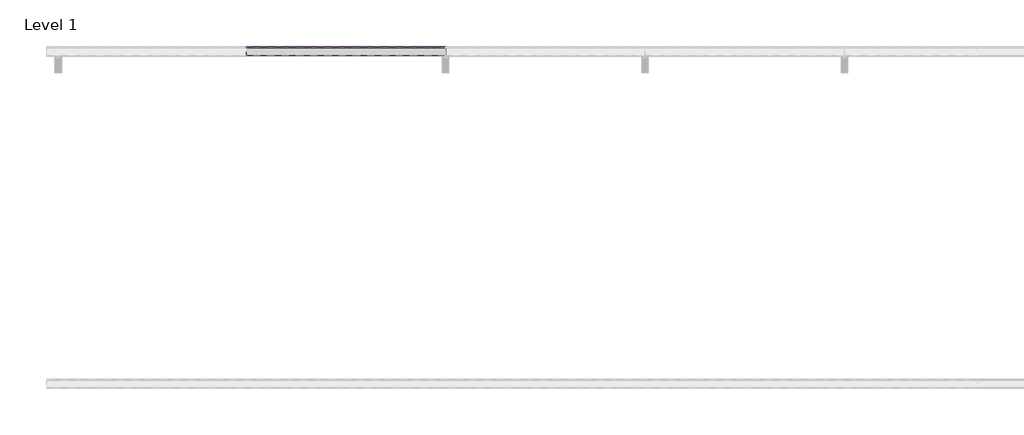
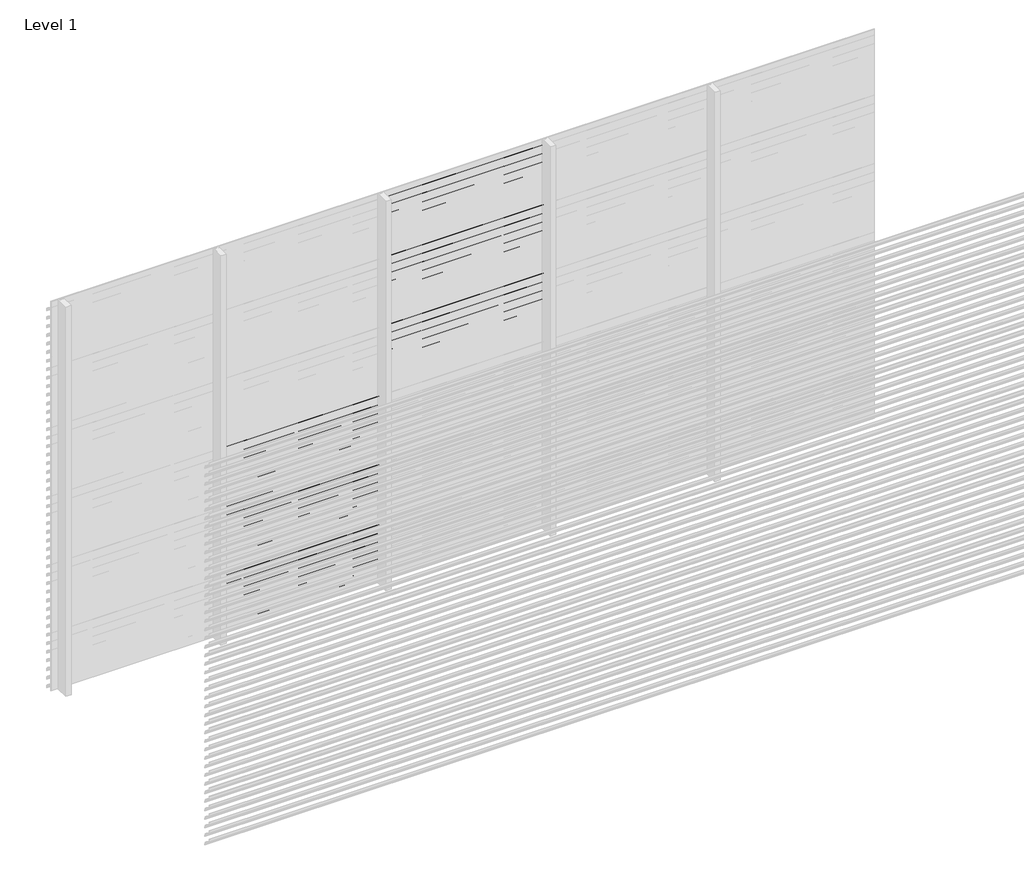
# One storey, part 140 of 540: 43 proxies.
"""IFC4 building model written with IfcOpenShell, lengths in millimetres."""

from ifc_helpers import new_model, si_unit, point, frame, frame_2d, origin, place, context, project, spatial, polyline, circle_curve, trimmed, segment, composite_curve, outline, extrude, element, save

model = new_model("IFC4")

# Units and contexts
model_context = context("Model", 3, world=origin())
ifc_project = project(units=[si_unit("LENGTHUNIT", "METRE", prefix="MILLI")], contexts=[model_context])

# Site, building, storey
site = spatial("IfcSite", under=ifc_project)
building = spatial("IfcBuilding", under=site)
storey = spatial("IfcBuildingStorey", under=building, Name="Level 1", Elevation=0.0)

# Proxies
placement = place(None, origin())
element("IfcBuildingElementProxy", 1, Name="Wall Sweeps", at=placement, inside=storey, context=model_context, shape_type="SweptSolid", body=[
    extrude(outline(composite_curve([segment(trimmed(circle_curve(frame_2d((29013.609548, 1381.7676769)), 26.4944656), [point((29030.5717655, 1402.1205608))], [point((29040.0540136, 1383.3946208))], False, "CARTESIAN"), True, "CONTINUOUS"), segment(polyline([(29040.0540136, 1383.3946208), (29040.0540136, 1375.5), (29038.8040136, 1376.2216933), (29038.8040136, 1381.7676769)]), True, "CONTINUOUS"), segment(trimmed(circle_curve(frame_2d((29013.609548, 1381.7676769)), 25.1944656), [point((29038.8040136, 1381.7676769))], [point((29029.7815085, 1401.086807))], True, "CARTESIAN"), True, "CONTINUOUS"), segment(polyline([(29029.7815085, 1401.086807), (28985.0540136, 1432.3158044), (28985.0540136, 1452.0), (28986.3040136, 1452.0), (28986.3040136, 1433.0285629), (29030.5717655, 1402.1205608)]), True, "CONTINUOUS")], self_intersect=False)), frame((90666.6208099, 0.0, 0.0), z_axis=(1.0, 0.0, 0.0), x_axis=(0.0, 1.0, 0.0)), (0.0, 0.0, 1.0), 1199.9999999),
])
element("IfcBuildingElementProxy", 2, Name="Wall Sweeps", at=placement, inside=storey, context=model_context, shape_type="SweptSolid", body=[
    extrude(outline(composite_curve([segment(trimmed(circle_curve(frame_2d((29013.609548, 1315.7676769)), 26.4944656), [point((29030.5717655, 1336.1205608))], [point((29040.0540136, 1317.3946208))], False, "CARTESIAN"), True, "CONTINUOUS"), segment(polyline([(29040.0540136, 1317.3946208), (29040.0540136, 1309.5), (29038.8040136, 1310.2216933), (29038.8040136, 1315.7676769)]), True, "CONTINUOUS"), segment(trimmed(circle_curve(frame_2d((29013.609548, 1315.7676769)), 25.1944656), [point((29038.8040136, 1315.7676769))], [point((29029.7815085, 1335.086807))], True, "CARTESIAN"), True, "CONTINUOUS"), segment(polyline([(29029.7815085, 1335.086807), (28985.0540136, 1366.3158044), (28985.0540136, 1386.0), (28986.3040136, 1386.0), (28986.3040136, 1367.0285629), (29030.5717655, 1336.1205608)]), True, "CONTINUOUS")], self_intersect=False)), frame((90666.6208099, 0.0, 0.0), z_axis=(1.0, 0.0, 0.0), x_axis=(0.0, 1.0, 0.0)), (0.0, 0.0, 1.0), 1199.9999999),
])
element("IfcBuildingElementProxy", 3, Name="Wall Sweeps", at=placement, inside=storey, context=model_context, shape_type="SweptSolid", body=[
    extrude(outline(composite_curve([segment(trimmed(circle_curve(frame_2d((29013.609548, 1249.7676769)), 26.4944656), [point((29030.5717655, 1270.1205608))], [point((29040.0540136, 1251.3946208))], False, "CARTESIAN"), True, "CONTINUOUS"), segment(polyline([(29040.0540136, 1251.3946208), (29040.0540136, 1243.5), (29038.8040136, 1244.2216933), (29038.8040136, 1249.7676769)]), True, "CONTINUOUS"), segment(trimmed(circle_curve(frame_2d((29013.609548, 1249.7676769)), 25.1944656), [point((29038.8040136, 1249.7676769))], [point((29029.7815085, 1269.086807))], True, "CARTESIAN"), True, "CONTINUOUS"), segment(polyline([(29029.7815085, 1269.086807), (28985.0540136, 1300.3158044), (28985.0540136, 1320.0), (28986.3040136, 1320.0), (28986.3040136, 1301.0285629), (29030.5717655, 1270.1205608)]), True, "CONTINUOUS")], self_intersect=False)), frame((90666.6208099, 0.0, 0.0), z_axis=(1.0, 0.0, 0.0), x_axis=(0.0, 1.0, 0.0)), (0.0, 0.0, 1.0), 1199.9999999),
])
element("IfcBuildingElementProxy", 4, Name="Wall Sweeps", at=placement, inside=storey, context=model_context, shape_type="SweptSolid", body=[
    extrude(outline(composite_curve([segment(trimmed(circle_curve(frame_2d((29013.609548, 1183.7676769)), 26.4944656), [point((29030.5717655, 1204.1205608))], [point((29040.0540136, 1185.3946208))], False, "CARTESIAN"), True, "CONTINUOUS"), segment(polyline([(29040.0540136, 1185.3946208), (29040.0540136, 1177.5), (29038.8040136, 1178.2216933), (29038.8040136, 1183.7676769)]), True, "CONTINUOUS"), segment(trimmed(circle_curve(frame_2d((29013.609548, 1183.7676769)), 25.1944656), [point((29038.8040136, 1183.7676769))], [point((29029.7815085, 1203.086807))], True, "CARTESIAN"), True, "CONTINUOUS"), segment(polyline([(29029.7815085, 1203.086807), (28985.0540136, 1234.3158044), (28985.0540136, 1254.0), (28986.3040136, 1254.0), (28986.3040136, 1235.0285629), (29030.5717655, 1204.1205608)]), True, "CONTINUOUS")], self_intersect=False)), frame((90666.6208099, 0.0, 0.0), z_axis=(1.0, 0.0, 0.0), x_axis=(0.0, 1.0, 0.0)), (0.0, 0.0, 1.0), 1199.9999999),
])
element("IfcBuildingElementProxy", 5, Name="Wall Sweeps", at=placement, inside=storey, context=model_context, shape_type="SweptSolid", body=[
    extrude(outline(composite_curve([segment(trimmed(circle_curve(frame_2d((29013.609548, 1117.7676769)), 26.4944656), [point((29030.5717655, 1138.1205608))], [point((29040.0540136, 1119.3946208))], False, "CARTESIAN"), True, "CONTINUOUS"), segment(polyline([(29040.0540136, 1119.3946208), (29040.0540136, 1111.5), (29038.8040136, 1112.2216933), (29038.8040136, 1117.7676769)]), True, "CONTINUOUS"), segment(trimmed(circle_curve(frame_2d((29013.609548, 1117.7676769)), 25.1944656), [point((29038.8040136, 1117.7676769))], [point((29029.7815085, 1137.086807))], True, "CARTESIAN"), True, "CONTINUOUS"), segment(polyline([(29029.7815085, 1137.086807), (28985.0540136, 1168.3158044), (28985.0540136, 1188.0), (28986.3040136, 1188.0), (28986.3040136, 1169.0285629), (29030.5717655, 1138.1205608)]), True, "CONTINUOUS")], self_intersect=False)), frame((90666.6208099, 0.0, 0.0), z_axis=(1.0, 0.0, 0.0), x_axis=(0.0, 1.0, 0.0)), (0.0, 0.0, 1.0), 1199.9999999),
])
element("IfcBuildingElementProxy", 6, Name="Wall Sweeps", at=placement, inside=storey, context=model_context, shape_type="SweptSolid", body=[
    extrude(outline(composite_curve([segment(trimmed(circle_curve(frame_2d((29013.609548, 1051.7676769)), 26.4944656), [point((29030.5717655, 1072.1205608))], [point((29040.0540136, 1053.3946208))], False, "CARTESIAN"), True, "CONTINUOUS"), segment(polyline([(29040.0540136, 1053.3946208), (29040.0540136, 1045.5), (29038.8040136, 1046.2216933), (29038.8040136, 1051.7676769)]), True, "CONTINUOUS"), segment(trimmed(circle_curve(frame_2d((29013.609548, 1051.7676769)), 25.1944656), [point((29038.8040136, 1051.7676769))], [point((29029.7815085, 1071.086807))], True, "CARTESIAN"), True, "CONTINUOUS"), segment(polyline([(29029.7815085, 1071.086807), (28985.0540136, 1102.3158044), (28985.0540136, 1122.0), (28986.3040136, 1122.0), (28986.3040136, 1103.0285629), (29030.5717655, 1072.1205608)]), True, "CONTINUOUS")], self_intersect=False)), frame((90666.6208099, 0.0, 0.0), z_axis=(1.0, 0.0, 0.0), x_axis=(0.0, 1.0, 0.0)), (0.0, 0.0, 1.0), 1199.9999999),
])
element("IfcBuildingElementProxy", 7, Name="Wall Sweeps", at=placement, inside=storey, context=model_context, shape_type="SweptSolid", body=[
    extrude(outline(composite_curve([segment(trimmed(circle_curve(frame_2d((29013.609548, 985.7676769)), 26.4944656), [point((29030.5717655, 1006.1205608))], [point((29040.0540136, 987.3946208))], False, "CARTESIAN"), True, "CONTINUOUS"), segment(polyline([(29040.0540136, 987.3946208), (29040.0540136, 979.5), (29038.8040136, 980.2216933), (29038.8040136, 985.7676769)]), True, "CONTINUOUS"), segment(trimmed(circle_curve(frame_2d((29013.609548, 985.7676769)), 25.1944656), [point((29038.8040136, 985.7676769))], [point((29029.7815085, 1005.086807))], True, "CARTESIAN"), True, "CONTINUOUS"), segment(polyline([(29029.7815085, 1005.086807), (28985.0540136, 1036.3158044), (28985.0540136, 1056.0), (28986.3040136, 1056.0), (28986.3040136, 1037.0285629), (29030.5717655, 1006.1205608)]), True, "CONTINUOUS")], self_intersect=False)), frame((90666.6208099, 0.0, 0.0), z_axis=(1.0, 0.0, 0.0), x_axis=(0.0, 1.0, 0.0)), (0.0, 0.0, 1.0), 1199.9999999),
])
element("IfcBuildingElementProxy", 8, Name="Wall Sweeps", at=placement, inside=storey, context=model_context, shape_type="SweptSolid", body=[
    extrude(outline(composite_curve([segment(trimmed(circle_curve(frame_2d((29013.609548, 919.7676769)), 26.4944656), [point((29030.5717655, 940.1205608))], [point((29040.0540136, 921.3946208))], False, "CARTESIAN"), True, "CONTINUOUS"), segment(polyline([(29040.0540136, 921.3946208), (29040.0540136, 913.5), (29038.8040136, 914.2216933), (29038.8040136, 919.7676769)]), True, "CONTINUOUS"), segment(trimmed(circle_curve(frame_2d((29013.609548, 919.7676769)), 25.1944656), [point((29038.8040136, 919.7676769))], [point((29029.7815085, 939.086807))], True, "CARTESIAN"), True, "CONTINUOUS"), segment(polyline([(29029.7815085, 939.086807), (28985.0540136, 970.3158044), (28985.0540136, 990.0), (28986.3040136, 990.0), (28986.3040136, 971.0285629), (29030.5717655, 940.1205608)]), True, "CONTINUOUS")], self_intersect=False)), frame((90666.6208099, 0.0, 0.0), z_axis=(1.0, 0.0, 0.0), x_axis=(0.0, 1.0, 0.0)), (0.0, 0.0, 1.0), 1199.9999999),
])
element("IfcBuildingElementProxy", 9, Name="Wall Sweeps", at=placement, inside=storey, context=model_context, shape_type="SweptSolid", body=[
    extrude(outline(composite_curve([segment(trimmed(circle_curve(frame_2d((29013.609548, 853.7676769)), 26.4944656), [point((29030.5717655, 874.1205608))], [point((29040.0540136, 855.3946208))], False, "CARTESIAN"), True, "CONTINUOUS"), segment(polyline([(29040.0540136, 855.3946208), (29040.0540136, 847.5), (29038.8040136, 848.2216933), (29038.8040136, 853.7676769)]), True, "CONTINUOUS"), segment(trimmed(circle_curve(frame_2d((29013.609548, 853.7676769)), 25.1944656), [point((29038.8040136, 853.7676769))], [point((29029.7815085, 873.086807))], True, "CARTESIAN"), True, "CONTINUOUS"), segment(polyline([(29029.7815085, 873.086807), (28985.0540136, 904.3158044), (28985.0540136, 924.0), (28986.3040136, 924.0), (28986.3040136, 905.0285629), (29030.5717655, 874.1205608)]), True, "CONTINUOUS")], self_intersect=False)), frame((90666.6208099, 0.0, 0.0), z_axis=(1.0, 0.0, 0.0), x_axis=(0.0, 1.0, 0.0)), (0.0, 0.0, 1.0), 1199.9999999),
])
element("IfcBuildingElementProxy", 10, Name="Wall Sweeps", at=placement, inside=storey, context=model_context, shape_type="SweptSolid", body=[
    extrude(outline(composite_curve([segment(trimmed(circle_curve(frame_2d((29013.609548, 787.7676769)), 26.4944656), [point((29030.5717655, 808.1205608))], [point((29040.0540136, 789.3946208))], False, "CARTESIAN"), True, "CONTINUOUS"), segment(polyline([(29040.0540136, 789.3946208), (29040.0540136, 781.5), (29038.8040136, 782.2216933), (29038.8040136, 787.7676769)]), True, "CONTINUOUS"), segment(trimmed(circle_curve(frame_2d((29013.609548, 787.7676769)), 25.1944656), [point((29038.8040136, 787.7676769))], [point((29029.7815085, 807.086807))], True, "CARTESIAN"), True, "CONTINUOUS"), segment(polyline([(29029.7815085, 807.086807), (28985.0540136, 838.3158044), (28985.0540136, 858.0), (28986.3040136, 858.0), (28986.3040136, 839.0285629), (29030.5717655, 808.1205608)]), True, "CONTINUOUS")], self_intersect=False)), frame((90666.6208099, 0.0, 0.0), z_axis=(1.0, 0.0, 0.0), x_axis=(0.0, 1.0, 0.0)), (0.0, 0.0, 1.0), 1199.9999999),
])
element("IfcBuildingElementProxy", 11, Name="Wall Sweeps", at=placement, inside=storey, context=model_context, shape_type="SweptSolid", body=[
    extrude(outline(composite_curve([segment(trimmed(circle_curve(frame_2d((29013.609548, 721.7676769)), 26.4944656), [point((29030.5717655, 742.1205608))], [point((29040.0540136, 723.3946208))], False, "CARTESIAN"), True, "CONTINUOUS"), segment(polyline([(29040.0540136, 723.3946208), (29040.0540136, 715.5), (29038.8040136, 716.2216933), (29038.8040136, 721.7676769)]), True, "CONTINUOUS"), segment(trimmed(circle_curve(frame_2d((29013.609548, 721.7676769)), 25.1944656), [point((29038.8040136, 721.7676769))], [point((29029.7815085, 741.086807))], True, "CARTESIAN"), True, "CONTINUOUS"), segment(polyline([(29029.7815085, 741.086807), (28985.0540136, 772.3158044), (28985.0540136, 792.0), (28986.3040136, 792.0), (28986.3040136, 773.0285629), (29030.5717655, 742.1205608)]), True, "CONTINUOUS")], self_intersect=False)), frame((90666.6208099, 0.0, 0.0), z_axis=(1.0, 0.0, 0.0), x_axis=(0.0, 1.0, 0.0)), (0.0, 0.0, 1.0), 1199.9999999),
])
element("IfcBuildingElementProxy", 12, Name="Wall Sweeps", at=placement, inside=storey, context=model_context, shape_type="SweptSolid", body=[
    extrude(outline(composite_curve([segment(trimmed(circle_curve(frame_2d((29013.609548, 655.7676769)), 26.4944656), [point((29030.5717655, 676.1205608))], [point((29040.0540136, 657.3946208))], False, "CARTESIAN"), True, "CONTINUOUS"), segment(polyline([(29040.0540136, 657.3946208), (29040.0540136, 649.5), (29038.8040136, 650.2216933), (29038.8040136, 655.7676769)]), True, "CONTINUOUS"), segment(trimmed(circle_curve(frame_2d((29013.609548, 655.7676769)), 25.1944656), [point((29038.8040136, 655.7676769))], [point((29029.7815085, 675.086807))], True, "CARTESIAN"), True, "CONTINUOUS"), segment(polyline([(29029.7815085, 675.086807), (28985.0540136, 706.3158044), (28985.0540136, 726.0), (28986.3040136, 726.0), (28986.3040136, 707.0285629), (29030.5717655, 676.1205608)]), True, "CONTINUOUS")], self_intersect=False)), frame((90666.6208099, 0.0, 0.0), z_axis=(1.0, 0.0, 0.0), x_axis=(0.0, 1.0, 0.0)), (0.0, 0.0, 1.0), 1199.9999999),
])
element("IfcBuildingElementProxy", 13, Name="Wall Sweeps", at=placement, inside=storey, context=model_context, shape_type="SweptSolid", body=[
    extrude(outline(composite_curve([segment(trimmed(circle_curve(frame_2d((29013.609548, 589.7676769)), 26.4944656), [point((29030.5717655, 610.1205608))], [point((29040.0540136, 591.3946208))], False, "CARTESIAN"), True, "CONTINUOUS"), segment(polyline([(29040.0540136, 591.3946208), (29040.0540136, 583.5), (29038.8040136, 584.2216933), (29038.8040136, 589.7676769)]), True, "CONTINUOUS"), segment(trimmed(circle_curve(frame_2d((29013.609548, 589.7676769)), 25.1944656), [point((29038.8040136, 589.7676769))], [point((29029.7815085, 609.086807))], True, "CARTESIAN"), True, "CONTINUOUS"), segment(polyline([(29029.7815085, 609.086807), (28985.0540136, 640.3158044), (28985.0540136, 660.0), (28986.3040136, 660.0), (28986.3040136, 641.0285629), (29030.5717655, 610.1205608)]), True, "CONTINUOUS")], self_intersect=False)), frame((90666.6208099, 0.0, 0.0), z_axis=(1.0, 0.0, 0.0), x_axis=(0.0, 1.0, 0.0)), (0.0, 0.0, 1.0), 1199.9999999),
])
element("IfcBuildingElementProxy", 14, Name="Wall Sweeps", at=placement, inside=storey, context=model_context, shape_type="SweptSolid", body=[
    extrude(outline(composite_curve([segment(trimmed(circle_curve(frame_2d((29013.609548, 523.7676769)), 26.4944656), [point((29030.5717655, 544.1205608))], [point((29040.0540136, 525.3946208))], False, "CARTESIAN"), True, "CONTINUOUS"), segment(polyline([(29040.0540136, 525.3946208), (29040.0540136, 517.5), (29038.8040136, 518.2216933), (29038.8040136, 523.7676769)]), True, "CONTINUOUS"), segment(trimmed(circle_curve(frame_2d((29013.609548, 523.7676769)), 25.1944656), [point((29038.8040136, 523.7676769))], [point((29029.7815085, 543.086807))], True, "CARTESIAN"), True, "CONTINUOUS"), segment(polyline([(29029.7815085, 543.086807), (28985.0540136, 574.3158044), (28985.0540136, 594.0), (28986.3040136, 594.0), (28986.3040136, 575.0285629), (29030.5717655, 544.1205608)]), True, "CONTINUOUS")], self_intersect=False)), frame((90666.6208099, 0.0, 0.0), z_axis=(1.0, 0.0, 0.0), x_axis=(0.0, 1.0, 0.0)), (0.0, 0.0, 1.0), 1199.9999999),
])
element("IfcBuildingElementProxy", 15, Name="Wall Sweeps", at=placement, inside=storey, context=model_context, shape_type="SweptSolid", body=[
    extrude(outline(composite_curve([segment(trimmed(circle_curve(frame_2d((29013.609548, 457.7676769)), 26.4944656), [point((29030.5717655, 478.1205608))], [point((29040.0540136, 459.3946208))], False, "CARTESIAN"), True, "CONTINUOUS"), segment(polyline([(29040.0540136, 459.3946208), (29040.0540136, 451.5), (29038.8040136, 452.2216933), (29038.8040136, 457.7676769)]), True, "CONTINUOUS"), segment(trimmed(circle_curve(frame_2d((29013.609548, 457.7676769)), 25.1944656), [point((29038.8040136, 457.7676769))], [point((29029.7815085, 477.086807))], True, "CARTESIAN"), True, "CONTINUOUS"), segment(polyline([(29029.7815085, 477.086807), (28985.0540136, 508.3158044), (28985.0540136, 528.0), (28986.3040136, 528.0), (28986.3040136, 509.0285629), (29030.5717655, 478.1205608)]), True, "CONTINUOUS")], self_intersect=False)), frame((90666.6208099, 0.0, 0.0), z_axis=(1.0, 0.0, 0.0), x_axis=(0.0, 1.0, 0.0)), (0.0, 0.0, 1.0), 1199.9999999),
])
element("IfcBuildingElementProxy", 16, Name="Wall Sweeps", at=placement, inside=storey, context=model_context, shape_type="SweptSolid", body=[
    extrude(outline(composite_curve([segment(trimmed(circle_curve(frame_2d((29013.609548, 391.7676769)), 26.4944656), [point((29030.5717655, 412.1205608))], [point((29040.0540136, 393.3946208))], False, "CARTESIAN"), True, "CONTINUOUS"), segment(polyline([(29040.0540136, 393.3946208), (29040.0540136, 385.5), (29038.8040136, 386.2216933), (29038.8040136, 391.7676769)]), True, "CONTINUOUS"), segment(trimmed(circle_curve(frame_2d((29013.609548, 391.7676769)), 25.1944656), [point((29038.8040136, 391.7676769))], [point((29029.7815085, 411.086807))], True, "CARTESIAN"), True, "CONTINUOUS"), segment(polyline([(29029.7815085, 411.086807), (28985.0540136, 442.3158044), (28985.0540136, 462.0), (28986.3040136, 462.0), (28986.3040136, 443.0285629), (29030.5717655, 412.1205608)]), True, "CONTINUOUS")], self_intersect=False)), frame((90666.6208099, 0.0, 0.0), z_axis=(1.0, 0.0, 0.0), x_axis=(0.0, 1.0, 0.0)), (0.0, 0.0, 1.0), 1199.9999999),
])
element("IfcBuildingElementProxy", 17, Name="Wall Sweeps", at=placement, inside=storey, context=model_context, shape_type="SweptSolid", body=[
    extrude(outline(composite_curve([segment(trimmed(circle_curve(frame_2d((29013.609548, 325.7676769)), 26.4944656), [point((29030.5717655, 346.1205608))], [point((29040.0540136, 327.3946208))], False, "CARTESIAN"), True, "CONTINUOUS"), segment(polyline([(29040.0540136, 327.3946208), (29040.0540136, 319.5), (29038.8040136, 320.2216933), (29038.8040136, 325.7676769)]), True, "CONTINUOUS"), segment(trimmed(circle_curve(frame_2d((29013.609548, 325.7676769)), 25.1944656), [point((29038.8040136, 325.7676769))], [point((29029.7815085, 345.086807))], True, "CARTESIAN"), True, "CONTINUOUS"), segment(polyline([(29029.7815085, 345.086807), (28985.0540136, 376.3158044), (28985.0540136, 396.0), (28986.3040136, 396.0), (28986.3040136, 377.0285629), (29030.5717655, 346.1205608)]), True, "CONTINUOUS")], self_intersect=False)), frame((90666.6208099, 0.0, 0.0), z_axis=(1.0, 0.0, 0.0), x_axis=(0.0, 1.0, 0.0)), (0.0, 0.0, 1.0), 1199.9999999),
])
element("IfcBuildingElementProxy", 18, Name="Wall Sweeps", at=placement, inside=storey, context=model_context, shape_type="SweptSolid", body=[
    extrude(outline(composite_curve([segment(trimmed(circle_curve(frame_2d((29013.609548, 259.7676769)), 26.4944656), [point((29030.5717655, 280.1205608))], [point((29040.0540136, 261.3946208))], False, "CARTESIAN"), True, "CONTINUOUS"), segment(polyline([(29040.0540136, 261.3946208), (29040.0540136, 253.5), (29038.8040136, 254.2216933), (29038.8040136, 259.7676769)]), True, "CONTINUOUS"), segment(trimmed(circle_curve(frame_2d((29013.609548, 259.7676769)), 25.1944656), [point((29038.8040136, 259.7676769))], [point((29029.7815085, 279.086807))], True, "CARTESIAN"), True, "CONTINUOUS"), segment(polyline([(29029.7815085, 279.086807), (28985.0540136, 310.3158044), (28985.0540136, 330.0), (28986.3040136, 330.0), (28986.3040136, 311.0285629), (29030.5717655, 280.1205608)]), True, "CONTINUOUS")], self_intersect=False)), frame((90666.6208099, 0.0, 0.0), z_axis=(1.0, 0.0, 0.0), x_axis=(0.0, 1.0, 0.0)), (0.0, 0.0, 1.0), 1199.9999999),
])
element("IfcBuildingElementProxy", 19, Name="Wall Sweeps", at=placement, inside=storey, context=model_context, shape_type="SweptSolid", body=[
    extrude(outline(composite_curve([segment(trimmed(circle_curve(frame_2d((29013.609548, 193.7676769)), 26.4944656), [point((29030.5717655, 214.1205608))], [point((29040.0540136, 195.3946208))], False, "CARTESIAN"), True, "CONTINUOUS"), segment(polyline([(29040.0540136, 195.3946208), (29040.0540136, 187.5), (29038.8040136, 188.2216933), (29038.8040136, 193.7676769)]), True, "CONTINUOUS"), segment(trimmed(circle_curve(frame_2d((29013.609548, 193.7676769)), 25.1944656), [point((29038.8040136, 193.7676769))], [point((29029.7815085, 213.086807))], True, "CARTESIAN"), True, "CONTINUOUS"), segment(polyline([(29029.7815085, 213.086807), (28985.0540136, 244.3158044), (28985.0540136, 264.0), (28986.3040136, 264.0), (28986.3040136, 245.0285629), (29030.5717655, 214.1205608)]), True, "CONTINUOUS")], self_intersect=False)), frame((90666.6208099, 0.0, 0.0), z_axis=(1.0, 0.0, 0.0), x_axis=(0.0, 1.0, 0.0)), (0.0, 0.0, 1.0), 1199.9999999),
])
element("IfcBuildingElementProxy", 20, Name="Wall Sweeps", at=placement, inside=storey, context=model_context, shape_type="SweptSolid", body=[
    extrude(outline(composite_curve([segment(trimmed(circle_curve(frame_2d((29013.609548, 127.7676769)), 26.4944656), [point((29030.5717655, 148.1205608))], [point((29040.0540136, 129.3946208))], False, "CARTESIAN"), True, "CONTINUOUS"), segment(polyline([(29040.0540136, 129.3946208), (29040.0540136, 121.5), (29038.8040136, 122.2216933), (29038.8040136, 127.7676769)]), True, "CONTINUOUS"), segment(trimmed(circle_curve(frame_2d((29013.609548, 127.7676769)), 25.1944656), [point((29038.8040136, 127.7676769))], [point((29029.7815085, 147.086807))], True, "CARTESIAN"), True, "CONTINUOUS"), segment(polyline([(29029.7815085, 147.086807), (28985.0540136, 178.3158044), (28985.0540136, 198.0), (28986.3040136, 198.0), (28986.3040136, 179.0285629), (29030.5717655, 148.1205608)]), True, "CONTINUOUS")], self_intersect=False)), frame((90666.6208099, 0.0, 0.0), z_axis=(1.0, 0.0, 0.0), x_axis=(0.0, 1.0, 0.0)), (0.0, 0.0, 1.0), 1199.9999999),
])
element("IfcBuildingElementProxy", 21, Name="Wall Sweeps", at=placement, inside=storey, context=model_context, shape_type="SweptSolid", body=[
    extrude(outline(composite_curve([segment(trimmed(circle_curve(frame_2d((29013.609548, 61.7676769)), 26.4944656), [point((29030.5717655, 82.1205608))], [point((29040.0540136, 63.3946208))], False, "CARTESIAN"), True, "CONTINUOUS"), segment(polyline([(29040.0540136, 63.3946208), (29040.0540136, 55.5), (29038.8040136, 56.2216933), (29038.8040136, 61.7676769)]), True, "CONTINUOUS"), segment(trimmed(circle_curve(frame_2d((29013.609548, 61.7676769)), 25.1944656), [point((29038.8040136, 61.7676769))], [point((29029.7815085, 81.086807))], True, "CARTESIAN"), True, "CONTINUOUS"), segment(polyline([(29029.7815085, 81.086807), (28985.0540136, 112.3158044), (28985.0540136, 132.0), (28986.3040136, 132.0), (28986.3040136, 113.0285629), (29030.5717655, 82.1205608)]), True, "CONTINUOUS")], self_intersect=False)), frame((90666.6208099, 0.0, 0.0), z_axis=(1.0, 0.0, 0.0), x_axis=(0.0, 1.0, 0.0)), (0.0, 0.0, 1.0), 1199.9999999),
])
element("IfcBuildingElementProxy", 22, Name="Wall Sweeps", at=placement, inside=storey, context=model_context, shape_type="SweptSolid", body=[
    extrude(outline(composite_curve([segment(trimmed(circle_curve(frame_2d((29013.609548, -4.2323231)), 26.4944656), [point((29030.5717655, 16.1205608))], [point((29040.0540136, -2.6053792))], False, "CARTESIAN"), True, "CONTINUOUS"), segment(polyline([(29040.0540136, -2.6053792), (29040.0540136, -10.5), (29038.8040136, -9.7783067), (29038.8040136, -4.2323231)]), True, "CONTINUOUS"), segment(trimmed(circle_curve(frame_2d((29013.609548, -4.2323231)), 25.1944656), [point((29038.8040136, -4.2323231))], [point((29029.7815085, 15.086807))], True, "CARTESIAN"), True, "CONTINUOUS"), segment(polyline([(29029.7815085, 15.086807), (28985.0540136, 46.3158044), (28985.0540136, 66.0), (28986.3040136, 66.0), (28986.3040136, 47.0285629), (29030.5717655, 16.1205608)]), True, "CONTINUOUS")], self_intersect=False)), frame((90666.6208099, 0.0, 0.0), z_axis=(1.0, 0.0, 0.0), x_axis=(0.0, 1.0, 0.0)), (0.0, 0.0, 1.0), 1199.9999999),
])
element("IfcBuildingElementProxy", 23, Name="Wall Sweeps", at=placement, inside=storey, context=model_context, shape_type="SweptSolid", body=[
    extrude(outline(composite_curve([segment(trimmed(circle_curve(frame_2d((29013.609548, 2899.7676769)), 26.4944656), [point((29030.5717655, 2920.1205608))], [point((29040.0540136, 2901.3946208))], False, "CARTESIAN"), True, "CONTINUOUS"), segment(polyline([(29040.0540136, 2901.3946208), (29040.0540136, 2893.5), (29038.8040136, 2894.2216933), (29038.8040136, 2899.7676769)]), True, "CONTINUOUS"), segment(trimmed(circle_curve(frame_2d((29013.609548, 2899.7676769)), 25.1944656), [point((29038.8040136, 2899.7676769))], [point((29029.7815085, 2919.086807))], True, "CARTESIAN"), True, "CONTINUOUS"), segment(polyline([(29029.7815085, 2919.086807), (28985.0540136, 2950.3158044), (28985.0540136, 2970.0), (28986.3040136, 2970.0), (28986.3040136, 2951.0285629), (29030.5717655, 2920.1205608)]), True, "CONTINUOUS")], self_intersect=False)), frame((91866.6208097, 0.0, 0.0), z_axis=(1.0, 0.0, 0.0), x_axis=(0.0, 1.0, 0.0)), (0.0, 0.0, 1.0), 1199.9999999),
])
element("IfcBuildingElementProxy", 24, Name="Wall Sweeps", at=placement, inside=storey, context=model_context, shape_type="SweptSolid", body=[
    extrude(outline(composite_curve([segment(trimmed(circle_curve(frame_2d((29013.609548, 2833.7676769)), 26.4944656), [point((29030.5717655, 2854.1205608))], [point((29040.0540136, 2835.3946208))], False, "CARTESIAN"), True, "CONTINUOUS"), segment(polyline([(29040.0540136, 2835.3946208), (29040.0540136, 2827.5), (29038.8040136, 2828.2216933), (29038.8040136, 2833.7676769)]), True, "CONTINUOUS"), segment(trimmed(circle_curve(frame_2d((29013.609548, 2833.7676769)), 25.1944656), [point((29038.8040136, 2833.7676769))], [point((29029.7815085, 2853.086807))], True, "CARTESIAN"), True, "CONTINUOUS"), segment(polyline([(29029.7815085, 2853.086807), (28985.0540136, 2884.3158044), (28985.0540136, 2904.0), (28986.3040136, 2904.0), (28986.3040136, 2885.0285629), (29030.5717655, 2854.1205608)]), True, "CONTINUOUS")], self_intersect=False)), frame((91866.6208097, 0.0, 0.0), z_axis=(1.0, 0.0, 0.0), x_axis=(0.0, 1.0, 0.0)), (0.0, 0.0, 1.0), 1199.9999999),
])
element("IfcBuildingElementProxy", 25, Name="Wall Sweeps", at=placement, inside=storey, context=model_context, shape_type="SweptSolid", body=[
    extrude(outline(composite_curve([segment(trimmed(circle_curve(frame_2d((29013.609548, 2767.7676769)), 26.4944656), [point((29030.5717655, 2788.1205608))], [point((29040.0540136, 2769.3946208))], False, "CARTESIAN"), True, "CONTINUOUS"), segment(polyline([(29040.0540136, 2769.3946208), (29040.0540136, 2761.5), (29038.8040136, 2762.2216933), (29038.8040136, 2767.7676769)]), True, "CONTINUOUS"), segment(trimmed(circle_curve(frame_2d((29013.609548, 2767.7676769)), 25.1944656), [point((29038.8040136, 2767.7676769))], [point((29029.7815085, 2787.086807))], True, "CARTESIAN"), True, "CONTINUOUS"), segment(polyline([(29029.7815085, 2787.086807), (28985.0540136, 2818.3158044), (28985.0540136, 2838.0), (28986.3040136, 2838.0), (28986.3040136, 2819.0285629), (29030.5717655, 2788.1205608)]), True, "CONTINUOUS")], self_intersect=False)), frame((91866.6208097, 0.0, 0.0), z_axis=(1.0, 0.0, 0.0), x_axis=(0.0, 1.0, 0.0)), (0.0, 0.0, 1.0), 1199.9999999),
])
element("IfcBuildingElementProxy", 26, Name="Wall Sweeps", at=placement, inside=storey, context=model_context, shape_type="SweptSolid", body=[
    extrude(outline(composite_curve([segment(trimmed(circle_curve(frame_2d((29013.609548, 2701.7676769)), 26.4944656), [point((29030.5717655, 2722.1205608))], [point((29040.0540136, 2703.3946208))], False, "CARTESIAN"), True, "CONTINUOUS"), segment(polyline([(29040.0540136, 2703.3946208), (29040.0540136, 2695.5), (29038.8040136, 2696.2216933), (29038.8040136, 2701.7676769)]), True, "CONTINUOUS"), segment(trimmed(circle_curve(frame_2d((29013.609548, 2701.7676769)), 25.1944656), [point((29038.8040136, 2701.7676769))], [point((29029.7815085, 2721.086807))], True, "CARTESIAN"), True, "CONTINUOUS"), segment(polyline([(29029.7815085, 2721.086807), (28985.0540136, 2752.3158044), (28985.0540136, 2772.0), (28986.3040136, 2772.0), (28986.3040136, 2753.0285629), (29030.5717655, 2722.1205608)]), True, "CONTINUOUS")], self_intersect=False)), frame((91866.6208097, 0.0, 0.0), z_axis=(1.0, 0.0, 0.0), x_axis=(0.0, 1.0, 0.0)), (0.0, 0.0, 1.0), 1199.9999999),
])
element("IfcBuildingElementProxy", 27, Name="Wall Sweeps", at=placement, inside=storey, context=model_context, shape_type="SweptSolid", body=[
    extrude(outline(composite_curve([segment(trimmed(circle_curve(frame_2d((29013.609548, 2635.7676769)), 26.4944656), [point((29030.5717655, 2656.1205608))], [point((29040.0540136, 2637.3946208))], False, "CARTESIAN"), True, "CONTINUOUS"), segment(polyline([(29040.0540136, 2637.3946208), (29040.0540136, 2629.5), (29038.8040136, 2630.2216933), (29038.8040136, 2635.7676769)]), True, "CONTINUOUS"), segment(trimmed(circle_curve(frame_2d((29013.609548, 2635.7676769)), 25.1944656), [point((29038.8040136, 2635.7676769))], [point((29029.7815085, 2655.086807))], True, "CARTESIAN"), True, "CONTINUOUS"), segment(polyline([(29029.7815085, 2655.086807), (28985.0540136, 2686.3158044), (28985.0540136, 2706.0), (28986.3040136, 2706.0), (28986.3040136, 2687.0285629), (29030.5717655, 2656.1205608)]), True, "CONTINUOUS")], self_intersect=False)), frame((91866.6208097, 0.0, 0.0), z_axis=(1.0, 0.0, 0.0), x_axis=(0.0, 1.0, 0.0)), (0.0, 0.0, 1.0), 1199.9999999),
])
element("IfcBuildingElementProxy", 28, Name="Wall Sweeps", at=placement, inside=storey, context=model_context, shape_type="SweptSolid", body=[
    extrude(outline(composite_curve([segment(trimmed(circle_curve(frame_2d((29013.609548, 2569.7676769)), 26.4944656), [point((29030.5717655, 2590.1205608))], [point((29040.0540136, 2571.3946208))], False, "CARTESIAN"), True, "CONTINUOUS"), segment(polyline([(29040.0540136, 2571.3946208), (29040.0540136, 2563.5), (29038.8040136, 2564.2216933), (29038.8040136, 2569.7676769)]), True, "CONTINUOUS"), segment(trimmed(circle_curve(frame_2d((29013.609548, 2569.7676769)), 25.1944656), [point((29038.8040136, 2569.7676769))], [point((29029.7815085, 2589.086807))], True, "CARTESIAN"), True, "CONTINUOUS"), segment(polyline([(29029.7815085, 2589.086807), (28985.0540136, 2620.3158044), (28985.0540136, 2640.0), (28986.3040136, 2640.0), (28986.3040136, 2621.0285629), (29030.5717655, 2590.1205608)]), True, "CONTINUOUS")], self_intersect=False)), frame((91866.6208097, 0.0, 0.0), z_axis=(1.0, 0.0, 0.0), x_axis=(0.0, 1.0, 0.0)), (0.0, 0.0, 1.0), 1199.9999999),
])
element("IfcBuildingElementProxy", 29, Name="Wall Sweeps", at=placement, inside=storey, context=model_context, shape_type="SweptSolid", body=[
    extrude(outline(composite_curve([segment(trimmed(circle_curve(frame_2d((29013.609548, 2503.7676769)), 26.4944656), [point((29030.5717655, 2524.1205608))], [point((29040.0540136, 2505.3946208))], False, "CARTESIAN"), True, "CONTINUOUS"), segment(polyline([(29040.0540136, 2505.3946208), (29040.0540136, 2497.5), (29038.8040136, 2498.2216933), (29038.8040136, 2503.7676769)]), True, "CONTINUOUS"), segment(trimmed(circle_curve(frame_2d((29013.609548, 2503.7676769)), 25.1944656), [point((29038.8040136, 2503.7676769))], [point((29029.7815085, 2523.086807))], True, "CARTESIAN"), True, "CONTINUOUS"), segment(polyline([(29029.7815085, 2523.086807), (28985.0540136, 2554.3158044), (28985.0540136, 2574.0), (28986.3040136, 2574.0), (28986.3040136, 2555.0285629), (29030.5717655, 2524.1205608)]), True, "CONTINUOUS")], self_intersect=False)), frame((91866.6208097, 0.0, 0.0), z_axis=(1.0, 0.0, 0.0), x_axis=(0.0, 1.0, 0.0)), (0.0, 0.0, 1.0), 1199.9999999),
])
element("IfcBuildingElementProxy", 30, Name="Wall Sweeps", at=placement, inside=storey, context=model_context, shape_type="SweptSolid", body=[
    extrude(outline(composite_curve([segment(trimmed(circle_curve(frame_2d((29013.609548, 2437.7676769)), 26.4944656), [point((29030.5717655, 2458.1205608))], [point((29040.0540136, 2439.3946208))], False, "CARTESIAN"), True, "CONTINUOUS"), segment(polyline([(29040.0540136, 2439.3946208), (29040.0540136, 2431.5), (29038.8040136, 2432.2216933), (29038.8040136, 2437.7676769)]), True, "CONTINUOUS"), segment(trimmed(circle_curve(frame_2d((29013.609548, 2437.7676769)), 25.1944656), [point((29038.8040136, 2437.7676769))], [point((29029.7815085, 2457.086807))], True, "CARTESIAN"), True, "CONTINUOUS"), segment(polyline([(29029.7815085, 2457.086807), (28985.0540136, 2488.3158044), (28985.0540136, 2508.0), (28986.3040136, 2508.0), (28986.3040136, 2489.0285629), (29030.5717655, 2458.1205608)]), True, "CONTINUOUS")], self_intersect=False)), frame((91866.6208097, 0.0, 0.0), z_axis=(1.0, 0.0, 0.0), x_axis=(0.0, 1.0, 0.0)), (0.0, 0.0, 1.0), 1199.9999999),
])
element("IfcBuildingElementProxy", 31, Name="Wall Sweeps", at=placement, inside=storey, context=model_context, shape_type="SweptSolid", body=[
    extrude(outline(composite_curve([segment(trimmed(circle_curve(frame_2d((29013.609548, 2371.7676769)), 26.4944656), [point((29030.5717655, 2392.1205608))], [point((29040.0540136, 2373.3946208))], False, "CARTESIAN"), True, "CONTINUOUS"), segment(polyline([(29040.0540136, 2373.3946208), (29040.0540136, 2365.5), (29038.8040136, 2366.2216933), (29038.8040136, 2371.7676769)]), True, "CONTINUOUS"), segment(trimmed(circle_curve(frame_2d((29013.609548, 2371.7676769)), 25.1944656), [point((29038.8040136, 2371.7676769))], [point((29029.7815085, 2391.086807))], True, "CARTESIAN"), True, "CONTINUOUS"), segment(polyline([(29029.7815085, 2391.086807), (28985.0540136, 2422.3158044), (28985.0540136, 2442.0), (28986.3040136, 2442.0), (28986.3040136, 2423.0285629), (29030.5717655, 2392.1205608)]), True, "CONTINUOUS")], self_intersect=False)), frame((91866.6208097, 0.0, 0.0), z_axis=(1.0, 0.0, 0.0), x_axis=(0.0, 1.0, 0.0)), (0.0, 0.0, 1.0), 1199.9999999),
])
element("IfcBuildingElementProxy", 32, Name="Wall Sweeps", at=placement, inside=storey, context=model_context, shape_type="SweptSolid", body=[
    extrude(outline(composite_curve([segment(trimmed(circle_curve(frame_2d((29013.609548, 2305.7676769)), 26.4944656), [point((29030.5717655, 2326.1205608))], [point((29040.0540136, 2307.3946208))], False, "CARTESIAN"), True, "CONTINUOUS"), segment(polyline([(29040.0540136, 2307.3946208), (29040.0540136, 2299.5), (29038.8040136, 2300.2216933), (29038.8040136, 2305.7676769)]), True, "CONTINUOUS"), segment(trimmed(circle_curve(frame_2d((29013.609548, 2305.7676769)), 25.1944656), [point((29038.8040136, 2305.7676769))], [point((29029.7815085, 2325.086807))], True, "CARTESIAN"), True, "CONTINUOUS"), segment(polyline([(29029.7815085, 2325.086807), (28985.0540136, 2356.3158044), (28985.0540136, 2376.0), (28986.3040136, 2376.0), (28986.3040136, 2357.0285629), (29030.5717655, 2326.1205608)]), True, "CONTINUOUS")], self_intersect=False)), frame((91866.6208097, 0.0, 0.0), z_axis=(1.0, 0.0, 0.0), x_axis=(0.0, 1.0, 0.0)), (0.0, 0.0, 1.0), 1199.9999999),
])
element("IfcBuildingElementProxy", 33, Name="Wall Sweeps", at=placement, inside=storey, context=model_context, shape_type="SweptSolid", body=[
    extrude(outline(composite_curve([segment(trimmed(circle_curve(frame_2d((29013.609548, 2239.7676769)), 26.4944656), [point((29030.5717655, 2260.1205608))], [point((29040.0540136, 2241.3946208))], False, "CARTESIAN"), True, "CONTINUOUS"), segment(polyline([(29040.0540136, 2241.3946208), (29040.0540136, 2233.5), (29038.8040136, 2234.2216933), (29038.8040136, 2239.7676769)]), True, "CONTINUOUS"), segment(trimmed(circle_curve(frame_2d((29013.609548, 2239.7676769)), 25.1944656), [point((29038.8040136, 2239.7676769))], [point((29029.7815085, 2259.086807))], True, "CARTESIAN"), True, "CONTINUOUS"), segment(polyline([(29029.7815085, 2259.086807), (28985.0540136, 2290.3158044), (28985.0540136, 2310.0), (28986.3040136, 2310.0), (28986.3040136, 2291.0285629), (29030.5717655, 2260.1205608)]), True, "CONTINUOUS")], self_intersect=False)), frame((91866.6208097, 0.0, 0.0), z_axis=(1.0, 0.0, 0.0), x_axis=(0.0, 1.0, 0.0)), (0.0, 0.0, 1.0), 1199.9999999),
])
element("IfcBuildingElementProxy", 34, Name="Wall Sweeps", at=placement, inside=storey, context=model_context, shape_type="SweptSolid", body=[
    extrude(outline(composite_curve([segment(trimmed(circle_curve(frame_2d((29013.609548, 2173.7676769)), 26.4944656), [point((29030.5717655, 2194.1205608))], [point((29040.0540136, 2175.3946208))], False, "CARTESIAN"), True, "CONTINUOUS"), segment(polyline([(29040.0540136, 2175.3946208), (29040.0540136, 2167.5), (29038.8040136, 2168.2216933), (29038.8040136, 2173.7676769)]), True, "CONTINUOUS"), segment(trimmed(circle_curve(frame_2d((29013.609548, 2173.7676769)), 25.1944656), [point((29038.8040136, 2173.7676769))], [point((29029.7815085, 2193.086807))], True, "CARTESIAN"), True, "CONTINUOUS"), segment(polyline([(29029.7815085, 2193.086807), (28985.0540136, 2224.3158044), (28985.0540136, 2244.0), (28986.3040136, 2244.0), (28986.3040136, 2225.0285629), (29030.5717655, 2194.1205608)]), True, "CONTINUOUS")], self_intersect=False)), frame((91866.6208097, 0.0, 0.0), z_axis=(1.0, 0.0, 0.0), x_axis=(0.0, 1.0, 0.0)), (0.0, 0.0, 1.0), 1199.9999999),
])
element("IfcBuildingElementProxy", 35, Name="Wall Sweeps", at=placement, inside=storey, context=model_context, shape_type="SweptSolid", body=[
    extrude(outline(composite_curve([segment(trimmed(circle_curve(frame_2d((29013.609548, 2107.7676769)), 26.4944656), [point((29030.5717655, 2128.1205608))], [point((29040.0540136, 2109.3946208))], False, "CARTESIAN"), True, "CONTINUOUS"), segment(polyline([(29040.0540136, 2109.3946208), (29040.0540136, 2101.5), (29038.8040136, 2102.2216933), (29038.8040136, 2107.7676769)]), True, "CONTINUOUS"), segment(trimmed(circle_curve(frame_2d((29013.609548, 2107.7676769)), 25.1944656), [point((29038.8040136, 2107.7676769))], [point((29029.7815085, 2127.086807))], True, "CARTESIAN"), True, "CONTINUOUS"), segment(polyline([(29029.7815085, 2127.086807), (28985.0540136, 2158.3158044), (28985.0540136, 2178.0), (28986.3040136, 2178.0), (28986.3040136, 2159.0285629), (29030.5717655, 2128.1205608)]), True, "CONTINUOUS")], self_intersect=False)), frame((91866.6208097, 0.0, 0.0), z_axis=(1.0, 0.0, 0.0), x_axis=(0.0, 1.0, 0.0)), (0.0, 0.0, 1.0), 1199.9999999),
])
element("IfcBuildingElementProxy", 36, Name="Wall Sweeps", at=placement, inside=storey, context=model_context, shape_type="SweptSolid", body=[
    extrude(outline(composite_curve([segment(trimmed(circle_curve(frame_2d((29013.609548, 2041.7676769)), 26.4944656), [point((29030.5717655, 2062.1205608))], [point((29040.0540136, 2043.3946208))], False, "CARTESIAN"), True, "CONTINUOUS"), segment(polyline([(29040.0540136, 2043.3946208), (29040.0540136, 2035.5), (29038.8040136, 2036.2216933), (29038.8040136, 2041.7676769)]), True, "CONTINUOUS"), segment(trimmed(circle_curve(frame_2d((29013.609548, 2041.7676769)), 25.1944656), [point((29038.8040136, 2041.7676769))], [point((29029.7815085, 2061.086807))], True, "CARTESIAN"), True, "CONTINUOUS"), segment(polyline([(29029.7815085, 2061.086807), (28985.0540136, 2092.3158044), (28985.0540136, 2112.0), (28986.3040136, 2112.0), (28986.3040136, 2093.0285629), (29030.5717655, 2062.1205608)]), True, "CONTINUOUS")], self_intersect=False)), frame((91866.6208097, 0.0, 0.0), z_axis=(1.0, 0.0, 0.0), x_axis=(0.0, 1.0, 0.0)), (0.0, 0.0, 1.0), 1199.9999999),
])
element("IfcBuildingElementProxy", 37, Name="Wall Sweeps", at=placement, inside=storey, context=model_context, shape_type="SweptSolid", body=[
    extrude(outline(composite_curve([segment(trimmed(circle_curve(frame_2d((29013.609548, 1975.7676769)), 26.4944656), [point((29030.5717655, 1996.1205608))], [point((29040.0540136, 1977.3946208))], False, "CARTESIAN"), True, "CONTINUOUS"), segment(polyline([(29040.0540136, 1977.3946208), (29040.0540136, 1969.5), (29038.8040136, 1970.2216933), (29038.8040136, 1975.7676769)]), True, "CONTINUOUS"), segment(trimmed(circle_curve(frame_2d((29013.609548, 1975.7676769)), 25.1944656), [point((29038.8040136, 1975.7676769))], [point((29029.7815085, 1995.086807))], True, "CARTESIAN"), True, "CONTINUOUS"), segment(polyline([(29029.7815085, 1995.086807), (28985.0540136, 2026.3158044), (28985.0540136, 2046.0), (28986.3040136, 2046.0), (28986.3040136, 2027.0285629), (29030.5717655, 1996.1205608)]), True, "CONTINUOUS")], self_intersect=False)), frame((91866.6208097, 0.0, 0.0), z_axis=(1.0, 0.0, 0.0), x_axis=(0.0, 1.0, 0.0)), (0.0, 0.0, 1.0), 1199.9999999),
])
element("IfcBuildingElementProxy", 38, Name="Wall Sweeps", at=placement, inside=storey, context=model_context, shape_type="SweptSolid", body=[
    extrude(outline(composite_curve([segment(trimmed(circle_curve(frame_2d((29013.609548, 1909.7676769)), 26.4944656), [point((29030.5717655, 1930.1205608))], [point((29040.0540136, 1911.3946208))], False, "CARTESIAN"), True, "CONTINUOUS"), segment(polyline([(29040.0540136, 1911.3946208), (29040.0540136, 1903.5), (29038.8040136, 1904.2216933), (29038.8040136, 1909.7676769)]), True, "CONTINUOUS"), segment(trimmed(circle_curve(frame_2d((29013.609548, 1909.7676769)), 25.1944656), [point((29038.8040136, 1909.7676769))], [point((29029.7815085, 1929.086807))], True, "CARTESIAN"), True, "CONTINUOUS"), segment(polyline([(29029.7815085, 1929.086807), (28985.0540136, 1960.3158044), (28985.0540136, 1980.0), (28986.3040136, 1980.0), (28986.3040136, 1961.0285629), (29030.5717655, 1930.1205608)]), True, "CONTINUOUS")], self_intersect=False)), frame((91866.6208097, 0.0, 0.0), z_axis=(1.0, 0.0, 0.0), x_axis=(0.0, 1.0, 0.0)), (0.0, 0.0, 1.0), 1199.9999999),
])
element("IfcBuildingElementProxy", 39, Name="Wall Sweeps", at=placement, inside=storey, context=model_context, shape_type="SweptSolid", body=[
    extrude(outline(composite_curve([segment(trimmed(circle_curve(frame_2d((29013.609548, 1843.7676769)), 26.4944656), [point((29030.5717655, 1864.1205608))], [point((29040.0540136, 1845.3946208))], False, "CARTESIAN"), True, "CONTINUOUS"), segment(polyline([(29040.0540136, 1845.3946208), (29040.0540136, 1837.5), (29038.8040136, 1838.2216933), (29038.8040136, 1843.7676769)]), True, "CONTINUOUS"), segment(trimmed(circle_curve(frame_2d((29013.609548, 1843.7676769)), 25.1944656), [point((29038.8040136, 1843.7676769))], [point((29029.7815085, 1863.086807))], True, "CARTESIAN"), True, "CONTINUOUS"), segment(polyline([(29029.7815085, 1863.086807), (28985.0540136, 1894.3158044), (28985.0540136, 1914.0), (28986.3040136, 1914.0), (28986.3040136, 1895.0285629), (29030.5717655, 1864.1205608)]), True, "CONTINUOUS")], self_intersect=False)), frame((91866.6208097, 0.0, 0.0), z_axis=(1.0, 0.0, 0.0), x_axis=(0.0, 1.0, 0.0)), (0.0, 0.0, 1.0), 1199.9999999),
])
element("IfcBuildingElementProxy", 40, Name="Wall Sweeps", at=placement, inside=storey, context=model_context, shape_type="SweptSolid", body=[
    extrude(outline(composite_curve([segment(trimmed(circle_curve(frame_2d((29013.609548, 1777.7676769)), 26.4944656), [point((29030.5717655, 1798.1205608))], [point((29040.0540136, 1779.3946208))], False, "CARTESIAN"), True, "CONTINUOUS"), segment(polyline([(29040.0540136, 1779.3946208), (29040.0540136, 1771.5), (29038.8040136, 1772.2216933), (29038.8040136, 1777.7676769)]), True, "CONTINUOUS"), segment(trimmed(circle_curve(frame_2d((29013.609548, 1777.7676769)), 25.1944656), [point((29038.8040136, 1777.7676769))], [point((29029.7815085, 1797.086807))], True, "CARTESIAN"), True, "CONTINUOUS"), segment(polyline([(29029.7815085, 1797.086807), (28985.0540136, 1828.3158044), (28985.0540136, 1848.0), (28986.3040136, 1848.0), (28986.3040136, 1829.0285629), (29030.5717655, 1798.1205608)]), True, "CONTINUOUS")], self_intersect=False)), frame((91866.6208097, 0.0, 0.0), z_axis=(1.0, 0.0, 0.0), x_axis=(0.0, 1.0, 0.0)), (0.0, 0.0, 1.0), 1199.9999999),
])
element("IfcBuildingElementProxy", 41, Name="Wall Sweeps", at=placement, inside=storey, context=model_context, shape_type="SweptSolid", body=[
    extrude(outline(composite_curve([segment(trimmed(circle_curve(frame_2d((29013.609548, 1711.7676769)), 26.4944656), [point((29030.5717655, 1732.1205608))], [point((29040.0540136, 1713.3946208))], False, "CARTESIAN"), True, "CONTINUOUS"), segment(polyline([(29040.0540136, 1713.3946208), (29040.0540136, 1705.5), (29038.8040136, 1706.2216933), (29038.8040136, 1711.7676769)]), True, "CONTINUOUS"), segment(trimmed(circle_curve(frame_2d((29013.609548, 1711.7676769)), 25.1944656), [point((29038.8040136, 1711.7676769))], [point((29029.7815085, 1731.086807))], True, "CARTESIAN"), True, "CONTINUOUS"), segment(polyline([(29029.7815085, 1731.086807), (28985.0540136, 1762.3158044), (28985.0540136, 1782.0), (28986.3040136, 1782.0), (28986.3040136, 1763.0285629), (29030.5717655, 1732.1205608)]), True, "CONTINUOUS")], self_intersect=False)), frame((91866.6208097, 0.0, 0.0), z_axis=(1.0, 0.0, 0.0), x_axis=(0.0, 1.0, 0.0)), (0.0, 0.0, 1.0), 1199.9999999),
])
element("IfcBuildingElementProxy", 42, Name="Wall Sweeps", at=placement, inside=storey, context=model_context, shape_type="SweptSolid", body=[
    extrude(outline(composite_curve([segment(trimmed(circle_curve(frame_2d((29013.609548, 1645.7676769)), 26.4944656), [point((29030.5717655, 1666.1205608))], [point((29040.0540136, 1647.3946208))], False, "CARTESIAN"), True, "CONTINUOUS"), segment(polyline([(29040.0540136, 1647.3946208), (29040.0540136, 1639.5), (29038.8040136, 1640.2216933), (29038.8040136, 1645.7676769)]), True, "CONTINUOUS"), segment(trimmed(circle_curve(frame_2d((29013.609548, 1645.7676769)), 25.1944656), [point((29038.8040136, 1645.7676769))], [point((29029.7815085, 1665.086807))], True, "CARTESIAN"), True, "CONTINUOUS"), segment(polyline([(29029.7815085, 1665.086807), (28985.0540136, 1696.3158044), (28985.0540136, 1716.0), (28986.3040136, 1716.0), (28986.3040136, 1697.0285629), (29030.5717655, 1666.1205608)]), True, "CONTINUOUS")], self_intersect=False)), frame((91866.6208097, 0.0, 0.0), z_axis=(1.0, 0.0, 0.0), x_axis=(0.0, 1.0, 0.0)), (0.0, 0.0, 1.0), 1199.9999999),
])
element("IfcBuildingElementProxy", 43, Name="Wall Sweeps", at=placement, inside=storey, context=model_context, shape_type="SweptSolid", body=[
    extrude(outline(composite_curve([segment(trimmed(circle_curve(frame_2d((29013.609548, 1579.7676769)), 26.4944656), [point((29030.5717655, 1600.1205608))], [point((29040.0540136, 1581.3946208))], False, "CARTESIAN"), True, "CONTINUOUS"), segment(polyline([(29040.0540136, 1581.3946208), (29040.0540136, 1573.5), (29038.8040136, 1574.2216933), (29038.8040136, 1579.7676769)]), True, "CONTINUOUS"), segment(trimmed(circle_curve(frame_2d((29013.609548, 1579.7676769)), 25.1944656), [point((29038.8040136, 1579.7676769))], [point((29029.7815085, 1599.086807))], True, "CARTESIAN"), True, "CONTINUOUS"), segment(polyline([(29029.7815085, 1599.086807), (28985.0540136, 1630.3158044), (28985.0540136, 1650.0), (28986.3040136, 1650.0), (28986.3040136, 1631.0285629), (29030.5717655, 1600.1205608)]), True, "CONTINUOUS")], self_intersect=False)), frame((91866.6208097, 0.0, 0.0), z_axis=(1.0, 0.0, 0.0), x_axis=(0.0, 1.0, 0.0)), (0.0, 0.0, 1.0), 1199.9999999),
])

save(model, "model.ifc")
